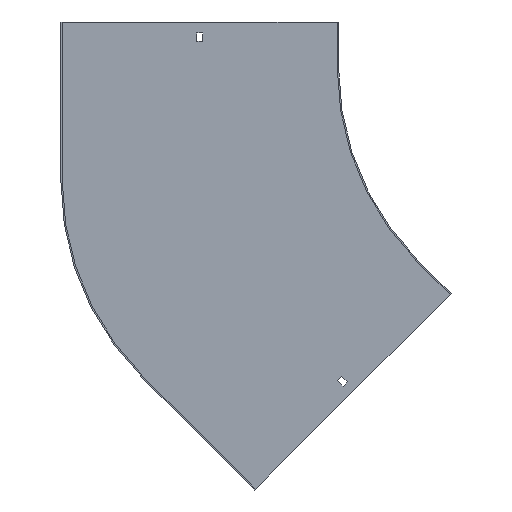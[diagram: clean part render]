
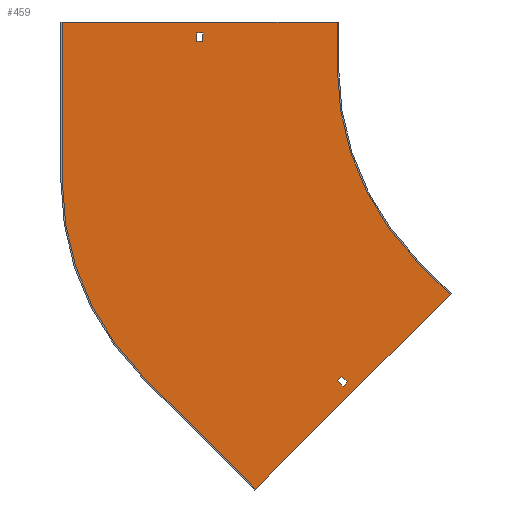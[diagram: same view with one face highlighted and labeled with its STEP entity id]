
A CAD part, front view. The second image highlights one B-rep face of the part: STEP entity #459.
In plain terms, the highlighted planar face has unit normal (0, -1, 0).
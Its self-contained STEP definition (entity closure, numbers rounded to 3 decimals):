
#7 = DIRECTION ( 'NONE',  ( 0., -1., 0. ) ) ;
#9 = DIRECTION ( 'NONE',  ( 0., -1., 0. ) ) ;
#16 = ORIENTED_EDGE ( 'NONE', *, *, #449, .F. ) ;
#17 = PLANE ( 'NONE',  #503 ) ;
#18 = CARTESIAN_POINT ( 'NONE',  ( -320.496, -1.5, -320.496 ) ) ;
#27 = CARTESIAN_POINT ( 'NONE',  ( -300., -1.5, 0. ) ) ;
#30 = VERTEX_POINT ( 'NONE', #630 ) ;
#34 = VECTOR ( 'NONE', #145, 1000. ) ;
#41 = LINE ( 'NONE', #646, #728 ) ;
#43 = EDGE_CURVE ( 'NONE', #92, #232, #765, .T. ) ;
#45 = VECTOR ( 'NONE', #206, 1000. ) ;
#49 = VECTOR ( 'NONE', #253, 1000. ) ;
#50 = VERTEX_POINT ( 'NONE', #698 ) ;
#70 = LINE ( 'NONE', #18, #742 ) ;
#78 = ORIENTED_EDGE ( 'NONE', *, *, #589, .T. ) ;
#80 = CARTESIAN_POINT ( 'NONE',  ( -600., -1.5, 50. ) ) ;
#88 = VERTEX_POINT ( 'NONE', #434 ) ;
#92 = VERTEX_POINT ( 'NONE', #184 ) ;
#107 = CARTESIAN_POINT ( 'NONE',  ( -601.5, -1.5, 50. ) ) ;
#123 = ORIENTED_EDGE ( 'NONE', *, *, #441, .T. ) ;
#125 = VECTOR ( 'NONE', #554, 1000. ) ;
#130 = ORIENTED_EDGE ( 'NONE', *, *, #305, .F. ) ;
#134 = EDGE_CURVE ( 'NONE', #471, #519, #301, .T. ) ;
#144 = VERTEX_POINT ( 'NONE', #27 ) ;
#145 = DIRECTION ( 'NONE',  ( -0.707, 0., -0.707 ) ) ;
#147 = ORIENTED_EDGE ( 'NONE', *, *, #749, .T. ) ;
#149 = CARTESIAN_POINT ( 'NONE',  ( -315.9, -1.5, -315.9 ) ) ;
#156 = ORIENTED_EDGE ( 'NONE', *, *, #134, .F. ) ;
#181 = VERTEX_POINT ( 'NONE', #549 ) ;
#184 = CARTESIAN_POINT ( 'NONE',  ( -289.03, -1.5, -342.77 ) ) ;
#203 = FACE_OUTER_BOUND ( 'NONE', #515, .T. ) ;
#206 = DIRECTION ( 'NONE',  ( 0.707, 0., 0.707 ) ) ;
#225 = DIRECTION ( 'NONE',  ( 0., 0., -1. ) ) ;
#232 = VERTEX_POINT ( 'NONE', #411 ) ;
#233 = VERTEX_POINT ( 'NONE', #355 ) ;
#245 = VECTOR ( 'NONE', #640, 1000. ) ;
#248 = DIRECTION ( 'NONE',  ( 1., 0., 0. ) ) ;
#250 = DIRECTION ( 'NONE',  ( -0.707, 0., 0.707 ) ) ;
#253 = DIRECTION ( 'NONE',  ( -1., 0., 0. ) ) ;
#255 = CARTESIAN_POINT ( 'NONE',  ( -453.25, -1.5, 0. ) ) ;
#264 = CARTESIAN_POINT ( 'NONE',  ( -300., -1.5, -124.264 ) ) ;
#271 = AXIS2_PLACEMENT_3D ( 'NONE', #613, #7, #482 ) ;
#281 = LINE ( 'NONE', #673, #524 ) ;
#290 = ORIENTED_EDGE ( 'NONE', *, *, #43, .F. ) ;
#295 = VERTEX_POINT ( 'NONE', #80 ) ;
#296 = EDGE_CURVE ( 'NONE', #232, #368, #349, .T. ) ;
#301 = CIRCLE ( 'NONE', #851, 300. ) ;
#302 = EDGE_CURVE ( 'NONE', #233, #144, #281, .T. ) ;
#305 = EDGE_CURVE ( 'NONE', #368, #572, #70, .T. ) ;
#307 = EDGE_CURVE ( 'NONE', #572, #92, #826, .T. ) ;
#310 = CARTESIAN_POINT ( 'NONE',  ( -600., -1.5, -124.264 ) ) ;
#312 = VECTOR ( 'NONE', #654, 1000. ) ;
#316 = LINE ( 'NONE', #853, #799 ) ;
#339 = CARTESIAN_POINT ( 'NONE',  ( -212.132, -1.5, -212.132 ) ) ;
#349 = LINE ( 'NONE', #391, #34 ) ;
#354 = CARTESIAN_POINT ( 'NONE',  ( -512.132, -1.5, -336.396 ) ) ;
#355 = CARTESIAN_POINT ( 'NONE',  ( -300., -1.5, 50. ) ) ;
#368 = VERTEX_POINT ( 'NONE', #565 ) ;
#370 = CARTESIAN_POINT ( 'NONE',  ( -600., -1.5, -124.264 ) ) ;
#373 = CARTESIAN_POINT ( 'NONE',  ( -446.75, -1.5, 0. ) ) ;
#390 = FACE_BOUND ( 'NONE', #692, .T. ) ;
#391 = CARTESIAN_POINT ( 'NONE',  ( 20.506, -1.5, -20.506 ) ) ;
#394 = DIRECTION ( 'NONE',  ( 0., 0., -1. ) ) ;
#401 = LINE ( 'NONE', #548, #125 ) ;
#411 = CARTESIAN_POINT ( 'NONE',  ( -295.394, -1.5, -336.406 ) ) ;
#421 = ORIENTED_EDGE ( 'NONE', *, *, #302, .F. ) ;
#430 = EDGE_CURVE ( 'NONE', #519, #295, #709, .T. ) ;
#431 = ORIENTED_EDGE ( 'NONE', *, *, #606, .T. ) ;
#434 = CARTESIAN_POINT ( 'NONE',  ( -388.909, -1.5, -459.619 ) ) ;
#441 = EDGE_CURVE ( 'NONE', #30, #767, #711, .T. ) ;
#449 = EDGE_CURVE ( 'NONE', #789, #50, #461, .T. ) ;
#456 = CARTESIAN_POINT ( 'NONE',  ( -453.25, -1.5, 38. ) ) ;
#457 = ORIENTED_EDGE ( 'NONE', *, *, #680, .F. ) ;
#459 = ADVANCED_FACE ( 'NONE', ( #390, #203, #819 ), #17, .T. ) ;
#461 = LINE ( 'NONE', #339, #468 ) ;
#462 = CARTESIAN_POINT ( 'NONE',  ( 26.87, -1.5, -26.87 ) ) ;
#468 = VECTOR ( 'NONE', #741, 1000. ) ;
#471 = VERTEX_POINT ( 'NONE', #354 ) ;
#477 = ORIENTED_EDGE ( 'NONE', *, *, #307, .F. ) ;
#478 = CARTESIAN_POINT ( 'NONE',  ( 0., -1.5, 0. ) ) ;
#482 = DIRECTION ( 'NONE',  ( 0., 0., -1. ) ) ;
#503 = AXIS2_PLACEMENT_3D ( 'NONE', #478, #9, #225 ) ;
#505 = ORIENTED_EDGE ( 'NONE', *, *, #430, .F. ) ;
#507 = EDGE_CURVE ( 'NONE', #50, #88, #401, .T. ) ;
#514 = LINE ( 'NONE', #860, #49 ) ;
#515 = EDGE_LOOP ( 'NONE', ( #568, #505, #156, #670, #588, #16, #457, #421 ) ) ;
#519 = VERTEX_POINT ( 'NONE', #310 ) ;
#524 = VECTOR ( 'NONE', #623, 1000. ) ;
#536 = DIRECTION ( 'NONE',  ( 0., 0., -1. ) ) ;
#539 = CARTESIAN_POINT ( 'NONE',  ( -212.132, -1.5, -212.132 ) ) ;
#548 = CARTESIAN_POINT ( 'NONE',  ( -175.716, -1.5, -246.427 ) ) ;
#549 = CARTESIAN_POINT ( 'NONE',  ( -453.25, -1.5, 29. ) ) ;
#554 = DIRECTION ( 'NONE',  ( -0.707, 0., -0.707 ) ) ;
#555 = CIRCLE ( 'NONE', #271, 300. ) ;
#565 = CARTESIAN_POINT ( 'NONE',  ( -299.99, -1.5, -341.002 ) ) ;
#568 = ORIENTED_EDGE ( 'NONE', *, *, #719, .F. ) ;
#572 = VERTEX_POINT ( 'NONE', #785 ) ;
#577 = EDGE_LOOP ( 'NONE', ( #78, #123, #147, #431 ) ) ;
#588 = ORIENTED_EDGE ( 'NONE', *, *, #507, .F. ) ;
#589 = EDGE_CURVE ( 'NONE', #710, #30, #316, .T. ) ;
#593 = LINE ( 'NONE', #255, #786 ) ;
#606 = EDGE_CURVE ( 'NONE', #181, #710, #593, .T. ) ;
#613 = CARTESIAN_POINT ( 'NONE',  ( 0., -1.5, 0. ) ) ;
#619 = DIRECTION ( 'NONE',  ( 0.707, 0., -0.707 ) ) ;
#623 = DIRECTION ( 'NONE',  ( 0., 0., -1. ) ) ;
#630 = CARTESIAN_POINT ( 'NONE',  ( -446.75, -1.5, 38. ) ) ;
#636 = DIRECTION ( 'NONE',  ( -0.707, 0., 0.707 ) ) ;
#640 = DIRECTION ( 'NONE',  ( 0., 0., 1. ) ) ;
#646 = CARTESIAN_POINT ( 'NONE',  ( -388.909, -1.5, -459.619 ) ) ;
#654 = DIRECTION ( 'NONE',  ( 1., 0., 0. ) ) ;
#670 = ORIENTED_EDGE ( 'NONE', *, *, #762, .F. ) ;
#673 = CARTESIAN_POINT ( 'NONE',  ( -300., -1.5, 50. ) ) ;
#680 = EDGE_CURVE ( 'NONE', #144, #789, #555, .T. ) ;
#692 = EDGE_LOOP ( 'NONE', ( #290, #477, #130, #840 ) ) ;
#698 = CARTESIAN_POINT ( 'NONE',  ( -176.777, -1.5, -247.487 ) ) ;
#709 = LINE ( 'NONE', #370, #245 ) ;
#710 = VERTEX_POINT ( 'NONE', #456 ) ;
#711 = LINE ( 'NONE', #373, #743 ) ;
#719 = EDGE_CURVE ( 'NONE', #295, #233, #731, .T. ) ;
#728 = VECTOR ( 'NONE', #250, 1000. ) ;
#731 = LINE ( 'NONE', #107, #312 ) ;
#738 = VECTOR ( 'NONE', #636, 1000. ) ;
#741 = DIRECTION ( 'NONE',  ( 0.707, 0., -0.707 ) ) ;
#742 = VECTOR ( 'NONE', #619, 1000. ) ;
#743 = VECTOR ( 'NONE', #394, 1000. ) ;
#744 = DIRECTION ( 'NONE',  ( 0., 1., 0. ) ) ;
#749 = EDGE_CURVE ( 'NONE', #767, #181, #514, .T. ) ;
#762 = EDGE_CURVE ( 'NONE', #88, #471, #41, .T. ) ;
#765 = LINE ( 'NONE', #149, #738 ) ;
#767 = VERTEX_POINT ( 'NONE', #788 ) ;
#785 = CARTESIAN_POINT ( 'NONE',  ( -293.626, -1.5, -347.366 ) ) ;
#786 = VECTOR ( 'NONE', #790, 1000. ) ;
#788 = CARTESIAN_POINT ( 'NONE',  ( -446.75, -1.5, 29. ) ) ;
#789 = VERTEX_POINT ( 'NONE', #539 ) ;
#790 = DIRECTION ( 'NONE',  ( 0., 0., 1. ) ) ;
#799 = VECTOR ( 'NONE', #248, 1000. ) ;
#819 = FACE_BOUND ( 'NONE', #577, .T. ) ;
#826 = LINE ( 'NONE', #462, #45 ) ;
#840 = ORIENTED_EDGE ( 'NONE', *, *, #296, .F. ) ;
#851 = AXIS2_PLACEMENT_3D ( 'NONE', #264, #744, #536 ) ;
#853 = CARTESIAN_POINT ( 'NONE',  ( 0., -1.5, 38. ) ) ;
#860 = CARTESIAN_POINT ( 'NONE',  ( 0., -1.5, 29. ) ) ;
